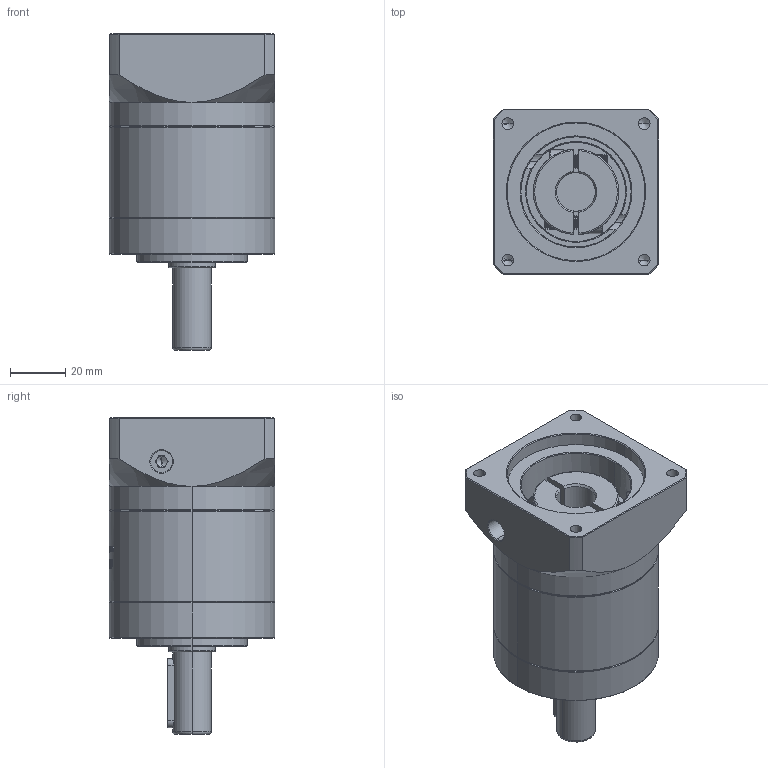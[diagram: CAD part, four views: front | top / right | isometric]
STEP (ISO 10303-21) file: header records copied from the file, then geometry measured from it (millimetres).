
FILE_DESCRIPTION (( 'STEP AP214' ), '1' );
FILE_NAME ('ZE60-D14-L1-14-50-70-M5.STEP', '2022-04-17T15:29:33', ( '' ), ( 'Microsoft' ), 'SwSTEP 2.0', 'SolidWorks 2016', '' );
FILE_SCHEMA (( 'AUTOMOTIVE_DESIGN' ));
Length unit declared in the file: millimetre
Products named in the file (1): ZE60-D14-L1-14-50-70-M5
Bounding box: 60 x 60 x 115 mm (x, y, z)
Volume: 212566.4 mm3; surface area: 42437.6 mm2
Topology: 6 solids, 6 shells, 1598 faces, 4328 edges, 2802 vertices
Faces by surface type: plane 724, cylinder 335, bspline 299, cone 220, torus 20
Entity records: 90450 total; most frequent: CARTESIAN_POINT 36361, ORIENTED_EDGE 8612, DIRECTION 6299, EDGE_CURVE 4306, VERTEX_POINT 2802, LINE 2201, VECTOR 2201, AXIS2_PLACEMENT_3D 2049
